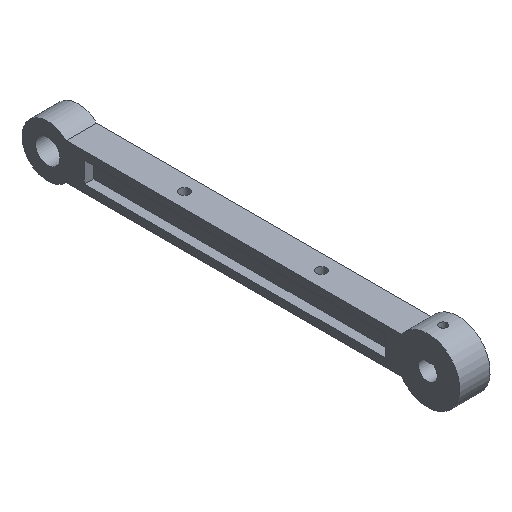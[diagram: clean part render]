
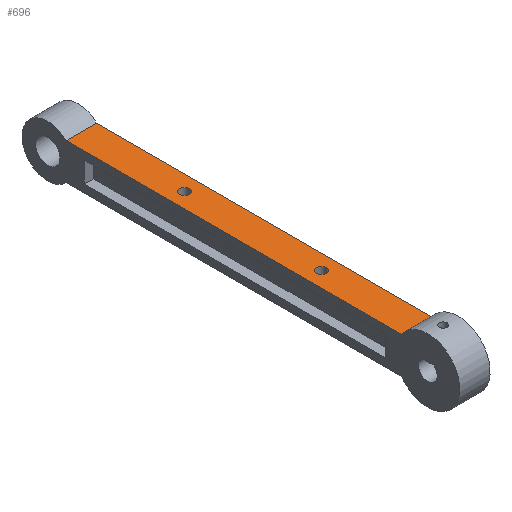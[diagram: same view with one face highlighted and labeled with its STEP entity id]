
A CAD part, isometric view. The second image highlights one B-rep face of the part: STEP entity #696.
In plain terms, the highlighted planar face has unit normal (0, 0, 1).
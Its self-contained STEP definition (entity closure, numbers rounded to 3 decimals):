
#24 = VERTEX_POINT('',#25);
#25 = CARTESIAN_POINT('',(-5.,8.617,6.));
#33 = PLANE('',#34);
#34 = AXIS2_PLACEMENT_3D('',#35,#36,#37);
#35 = CARTESIAN_POINT('',(-5.,0.,-6.));
#36 = DIRECTION('',(1.,0.,0.));
#37 = DIRECTION('',(0.,0.,1.));
#49 = CYLINDRICAL_SURFACE('',#50,10.5);
#50 = AXIS2_PLACEMENT_3D('',#51,#52,#53);
#51 = CARTESIAN_POINT('',(-5.,0.,0.));
#52 = DIRECTION('',(-1.,-0.,-0.));
#53 = DIRECTION('',(0.,-1.,0.));
#90 = VERTEX_POINT('',#91);
#91 = CARTESIAN_POINT('',(-5.,118.979,6.));
#106 = CYLINDRICAL_SURFACE('',#107,8.5);
#107 = AXIS2_PLACEMENT_3D('',#108,#109,#110);
#108 = CARTESIAN_POINT('',(-5.,125.,0.));
#109 = DIRECTION('',(-1.,-0.,-0.));
#110 = DIRECTION('',(0.,-1.,0.));
#118 = EDGE_CURVE('',#24,#90,#119,.T.);
#119 = SURFACE_CURVE('',#120,(#124,#131),.PCURVE_S1.);
#120 = LINE('',#121,#122);
#121 = CARTESIAN_POINT('',(-5.,0.,6.));
#122 = VECTOR('',#123,1.);
#123 = DIRECTION('',(0.,1.,0.));
#124 = PCURVE('',#33,#125);
#125 = DEFINITIONAL_REPRESENTATION('',(#126),#130);
#126 = LINE('',#127,#128);
#127 = CARTESIAN_POINT('',(12.,0.));
#128 = VECTOR('',#129,1.);
#129 = DIRECTION('',(0.,-1.));
#130 = ( GEOMETRIC_REPRESENTATION_CONTEXT(2) 
PARAMETRIC_REPRESENTATION_CONTEXT() REPRESENTATION_CONTEXT('2D SPACE',''
  ) );
#131 = PCURVE('',#132,#137);
#132 = PLANE('',#133);
#133 = AXIS2_PLACEMENT_3D('',#134,#135,#136);
#134 = CARTESIAN_POINT('',(-5.,0.,6.));
#135 = DIRECTION('',(0.,0.,1.));
#136 = DIRECTION('',(1.,0.,0.));
#137 = DEFINITIONAL_REPRESENTATION('',(#138),#142);
#138 = LINE('',#139,#140);
#139 = CARTESIAN_POINT('',(0.,0.));
#140 = VECTOR('',#141,1.);
#141 = DIRECTION('',(0.,1.));
#142 = ( GEOMETRIC_REPRESENTATION_CONTEXT(2) 
PARAMETRIC_REPRESENTATION_CONTEXT() REPRESENTATION_CONTEXT('2D SPACE',''
  ) );
#356 = VERTEX_POINT('',#357);
#357 = CARTESIAN_POINT('',(5.,8.617,6.));
#372 = PLANE('',#373);
#373 = AXIS2_PLACEMENT_3D('',#374,#375,#376);
#374 = CARTESIAN_POINT('',(5.,0.,0.));
#375 = DIRECTION('',(1.,0.,0.));
#376 = DIRECTION('',(-0.,0.,1.));
#408 = EDGE_CURVE('',#356,#24,#409,.T.);
#409 = SURFACE_CURVE('',#410,(#414,#420),.PCURVE_S1.);
#410 = LINE('',#411,#412);
#411 = CARTESIAN_POINT('',(-5.,8.617,6.));
#412 = VECTOR('',#413,1.);
#413 = DIRECTION('',(-1.,-0.,-0.));
#414 = PCURVE('',#49,#415);
#415 = DEFINITIONAL_REPRESENTATION('',(#416),#419);
#416 = B_SPLINE_CURVE_WITH_KNOTS('',1,(#417,#418),.UNSPECIFIED.,.F.,.F.,
  (2,2),(-10.,0.),.PIECEWISE_BEZIER_KNOTS.);
#417 = CARTESIAN_POINT('',(-3.75,-10.));
#418 = CARTESIAN_POINT('',(-3.75,0.));
#419 = ( GEOMETRIC_REPRESENTATION_CONTEXT(2) 
PARAMETRIC_REPRESENTATION_CONTEXT() REPRESENTATION_CONTEXT('2D SPACE',''
  ) );
#420 = PCURVE('',#132,#421);
#421 = DEFINITIONAL_REPRESENTATION('',(#422),#425);
#422 = B_SPLINE_CURVE_WITH_KNOTS('',1,(#423,#424),.UNSPECIFIED.,.F.,.F.,
  (2,2),(-10.,0.),.PIECEWISE_BEZIER_KNOTS.);
#423 = CARTESIAN_POINT('',(10.,8.617));
#424 = CARTESIAN_POINT('',(0.,8.617));
#425 = ( GEOMETRIC_REPRESENTATION_CONTEXT(2) 
PARAMETRIC_REPRESENTATION_CONTEXT() REPRESENTATION_CONTEXT('2D SPACE',''
  ) );
#650 = CYLINDRICAL_SURFACE('',#651,1.6);
#651 = AXIS2_PLACEMENT_3D('',#652,#653,#654);
#652 = CARTESIAN_POINT('',(0.,40.,-7.));
#653 = DIRECTION('',(-0.,0.,-1.));
#654 = DIRECTION('',(0.,1.,0.));
#685 = CYLINDRICAL_SURFACE('',#686,1.6);
#686 = AXIS2_PLACEMENT_3D('',#687,#688,#689);
#687 = CARTESIAN_POINT('',(0.,85.,-7.));
#688 = DIRECTION('',(-0.,0.,-1.));
#689 = DIRECTION('',(0.,1.,0.));
#696 = ADVANCED_FACE('',(#697,#743,#773),#132,.T.);
#697 = FACE_BOUND('',#698,.T.);
#698 = EDGE_LOOP('',(#699,#700,#701,#724));
#699 = ORIENTED_EDGE('',*,*,#118,.F.);
#700 = ORIENTED_EDGE('',*,*,#408,.F.);
#701 = ORIENTED_EDGE('',*,*,#702,.T.);
#702 = EDGE_CURVE('',#356,#703,#705,.T.);
#703 = VERTEX_POINT('',#704);
#704 = CARTESIAN_POINT('',(5.,118.979,6.));
#705 = SURFACE_CURVE('',#706,(#710,#717),.PCURVE_S1.);
#706 = LINE('',#707,#708);
#707 = CARTESIAN_POINT('',(5.,0.,6.));
#708 = VECTOR('',#709,1.);
#709 = DIRECTION('',(0.,1.,0.));
#710 = PCURVE('',#132,#711);
#711 = DEFINITIONAL_REPRESENTATION('',(#712),#716);
#712 = LINE('',#713,#714);
#713 = CARTESIAN_POINT('',(10.,0.));
#714 = VECTOR('',#715,1.);
#715 = DIRECTION('',(0.,1.));
#716 = ( GEOMETRIC_REPRESENTATION_CONTEXT(2) 
PARAMETRIC_REPRESENTATION_CONTEXT() REPRESENTATION_CONTEXT('2D SPACE',''
  ) );
#717 = PCURVE('',#372,#718);
#718 = DEFINITIONAL_REPRESENTATION('',(#719),#723);
#719 = LINE('',#720,#721);
#720 = CARTESIAN_POINT('',(6.,0.));
#721 = VECTOR('',#722,1.);
#722 = DIRECTION('',(0.,-1.));
#723 = ( GEOMETRIC_REPRESENTATION_CONTEXT(2) 
PARAMETRIC_REPRESENTATION_CONTEXT() REPRESENTATION_CONTEXT('2D SPACE',''
  ) );
#724 = ORIENTED_EDGE('',*,*,#725,.T.);
#725 = EDGE_CURVE('',#703,#90,#726,.T.);
#726 = SURFACE_CURVE('',#727,(#731,#737),.PCURVE_S1.);
#727 = LINE('',#728,#729);
#728 = CARTESIAN_POINT('',(-5.,118.979,6.));
#729 = VECTOR('',#730,1.);
#730 = DIRECTION('',(-1.,-0.,-0.));
#731 = PCURVE('',#132,#732);
#732 = DEFINITIONAL_REPRESENTATION('',(#733),#736);
#733 = B_SPLINE_CURVE_WITH_KNOTS('',1,(#734,#735),.UNSPECIFIED.,.F.,.F.,
  (2,2),(-10.,0.),.PIECEWISE_BEZIER_KNOTS.);
#734 = CARTESIAN_POINT('',(10.,118.979));
#735 = CARTESIAN_POINT('',(0.,118.979));
#736 = ( GEOMETRIC_REPRESENTATION_CONTEXT(2) 
PARAMETRIC_REPRESENTATION_CONTEXT() REPRESENTATION_CONTEXT('2D SPACE',''
  ) );
#737 = PCURVE('',#106,#738);
#738 = DEFINITIONAL_REPRESENTATION('',(#739),#742);
#739 = B_SPLINE_CURVE_WITH_KNOTS('',1,(#740,#741),.UNSPECIFIED.,.F.,.F.,
  (2,2),(-10.,0.),.PIECEWISE_BEZIER_KNOTS.);
#740 = CARTESIAN_POINT('',(-5.5,-10.));
#741 = CARTESIAN_POINT('',(-5.5,0.));
#742 = ( GEOMETRIC_REPRESENTATION_CONTEXT(2) 
PARAMETRIC_REPRESENTATION_CONTEXT() REPRESENTATION_CONTEXT('2D SPACE',''
  ) );
#743 = FACE_BOUND('',#744,.T.);
#744 = EDGE_LOOP('',(#745));
#745 = ORIENTED_EDGE('',*,*,#746,.T.);
#746 = EDGE_CURVE('',#747,#747,#749,.T.);
#747 = VERTEX_POINT('',#748);
#748 = CARTESIAN_POINT('',(0.,41.6,6.));
#749 = SURFACE_CURVE('',#750,(#755,#766),.PCURVE_S1.);
#750 = CIRCLE('',#751,1.6);
#751 = AXIS2_PLACEMENT_3D('',#752,#753,#754);
#752 = CARTESIAN_POINT('',(0.,40.,6.));
#753 = DIRECTION('',(-0.,0.,-1.));
#754 = DIRECTION('',(0.,1.,0.));
#755 = PCURVE('',#132,#756);
#756 = DEFINITIONAL_REPRESENTATION('',(#757),#765);
#757 = ( BOUNDED_CURVE() B_SPLINE_CURVE(2,(#758,#759,#760,#761,#762,#763
,#764),.UNSPECIFIED.,.T.,.F.) B_SPLINE_CURVE_WITH_KNOTS((1,2,2,2,2,1),(
    -2.094,0.,2.094,4.189,6.283,
8.378),.UNSPECIFIED.) CURVE() GEOMETRIC_REPRESENTATION_ITEM() 
RATIONAL_B_SPLINE_CURVE((1.,0.5,1.,0.5,1.,0.5,1.)) REPRESENTATION_ITEM(
  '') );
#758 = CARTESIAN_POINT('',(5.,41.6));
#759 = CARTESIAN_POINT('',(7.771,41.6));
#760 = CARTESIAN_POINT('',(6.386,39.2));
#761 = CARTESIAN_POINT('',(5.,36.8));
#762 = CARTESIAN_POINT('',(3.614,39.2));
#763 = CARTESIAN_POINT('',(2.229,41.6));
#764 = CARTESIAN_POINT('',(5.,41.6));
#765 = ( GEOMETRIC_REPRESENTATION_CONTEXT(2) 
PARAMETRIC_REPRESENTATION_CONTEXT() REPRESENTATION_CONTEXT('2D SPACE',''
  ) );
#766 = PCURVE('',#650,#767);
#767 = DEFINITIONAL_REPRESENTATION('',(#768),#772);
#768 = LINE('',#769,#770);
#769 = CARTESIAN_POINT('',(-6.283,-13.));
#770 = VECTOR('',#771,1.);
#771 = DIRECTION('',(1.,-0.));
#772 = ( GEOMETRIC_REPRESENTATION_CONTEXT(2) 
PARAMETRIC_REPRESENTATION_CONTEXT() REPRESENTATION_CONTEXT('2D SPACE',''
  ) );
#773 = FACE_BOUND('',#774,.T.);
#774 = EDGE_LOOP('',(#775));
#775 = ORIENTED_EDGE('',*,*,#776,.T.);
#776 = EDGE_CURVE('',#777,#777,#779,.T.);
#777 = VERTEX_POINT('',#778);
#778 = CARTESIAN_POINT('',(0.,86.6,6.));
#779 = SURFACE_CURVE('',#780,(#785,#796),.PCURVE_S1.);
#780 = CIRCLE('',#781,1.6);
#781 = AXIS2_PLACEMENT_3D('',#782,#783,#784);
#782 = CARTESIAN_POINT('',(0.,85.,6.));
#783 = DIRECTION('',(-0.,0.,-1.));
#784 = DIRECTION('',(0.,1.,0.));
#785 = PCURVE('',#132,#786);
#786 = DEFINITIONAL_REPRESENTATION('',(#787),#795);
#787 = ( BOUNDED_CURVE() B_SPLINE_CURVE(2,(#788,#789,#790,#791,#792,#793
,#794),.UNSPECIFIED.,.T.,.F.) B_SPLINE_CURVE_WITH_KNOTS((1,2,2,2,2,1),(
    -2.094,0.,2.094,4.189,6.283,
8.378),.UNSPECIFIED.) CURVE() GEOMETRIC_REPRESENTATION_ITEM() 
RATIONAL_B_SPLINE_CURVE((1.,0.5,1.,0.5,1.,0.5,1.)) REPRESENTATION_ITEM(
  '') );
#788 = CARTESIAN_POINT('',(5.,86.6));
#789 = CARTESIAN_POINT('',(7.771,86.6));
#790 = CARTESIAN_POINT('',(6.386,84.2));
#791 = CARTESIAN_POINT('',(5.,81.8));
#792 = CARTESIAN_POINT('',(3.614,84.2));
#793 = CARTESIAN_POINT('',(2.229,86.6));
#794 = CARTESIAN_POINT('',(5.,86.6));
#795 = ( GEOMETRIC_REPRESENTATION_CONTEXT(2) 
PARAMETRIC_REPRESENTATION_CONTEXT() REPRESENTATION_CONTEXT('2D SPACE',''
  ) );
#796 = PCURVE('',#685,#797);
#797 = DEFINITIONAL_REPRESENTATION('',(#798),#802);
#798 = LINE('',#799,#800);
#799 = CARTESIAN_POINT('',(-6.283,-13.));
#800 = VECTOR('',#801,1.);
#801 = DIRECTION('',(1.,-0.));
#802 = ( GEOMETRIC_REPRESENTATION_CONTEXT(2) 
PARAMETRIC_REPRESENTATION_CONTEXT() REPRESENTATION_CONTEXT('2D SPACE',''
  ) );
